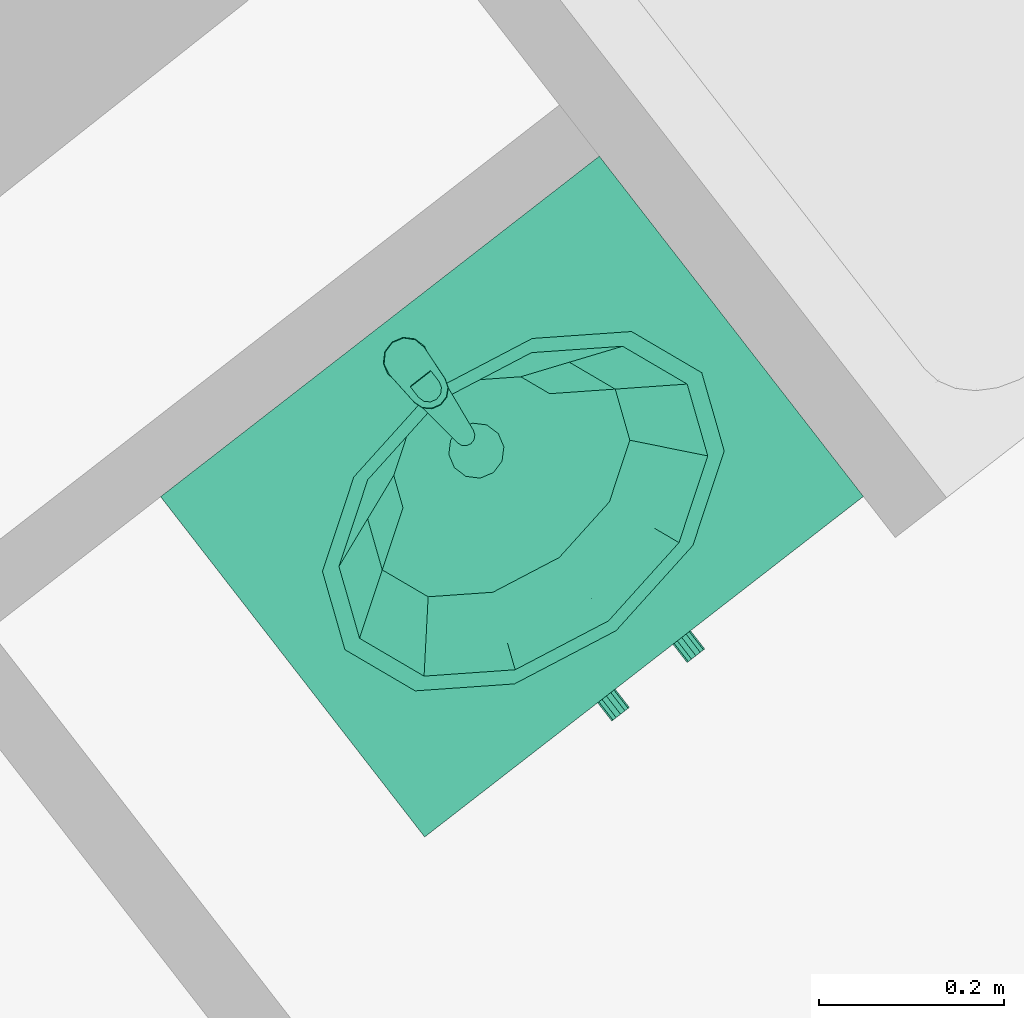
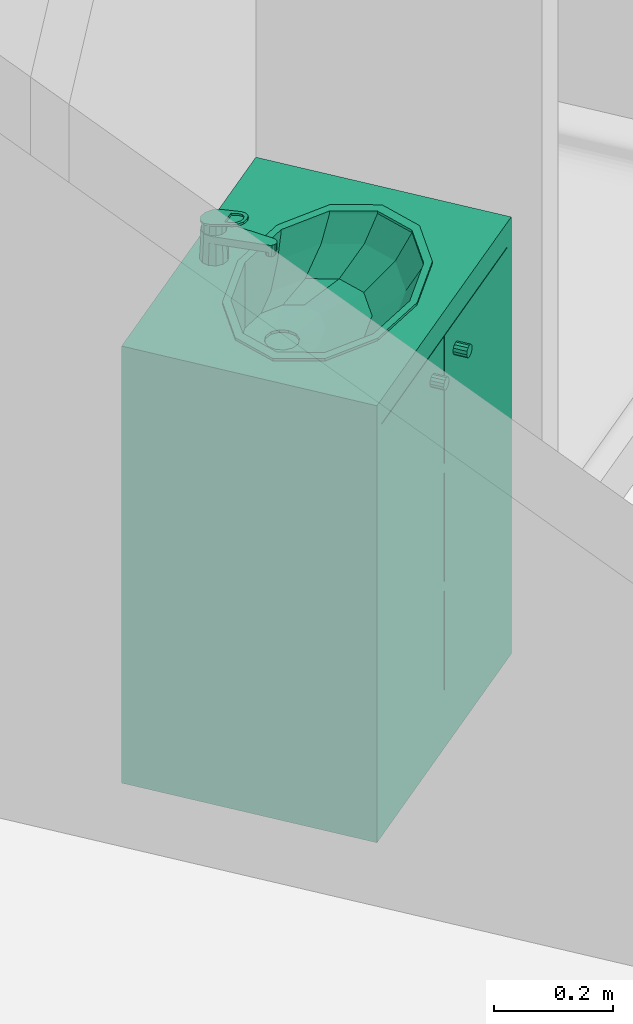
# One storey, part 137 of 195: 1 distribution element.
"""IFC2X3 building model written with IfcOpenShell, lengths in metres."""

from ifc_helpers import new_model, entity, si_unit, converted_unit, derived_unit, money_unit, direction, frame, origin_with_axes, place, context, subcontext, project, spatial, open_shell, faceted_brep, surface_model, source, transform, mapped, type_object, element, save


model = new_model("IFC2X3")

# Units and contexts
model_context = context("Model", 3, precision=1e-05, world=origin_with_axes(), true_north=direction((0.0, 1.0)))
body_context = subcontext(model_context, "Body", "Model", "MODEL_VIEW")
ifc_project = project(units=[si_unit("LENGTHUNIT", "METRE"), si_unit("AREAUNIT", "SQUARE_METRE"), si_unit("VOLUMEUNIT", "CUBIC_METRE"), converted_unit("PLANEANGLEUNIT", "DEGREE", entity("IfcPlaneAngleMeasure", 0.0174532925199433), si_unit("PLANEANGLEUNIT", "RADIAN"), dimensions=[0, 0, 0, 0, 0, 0, 0]), money_unit("CHF"), converted_unit("TIMEUNIT", "Year", entity("IfcTimeMeasure", 31557600.0), si_unit("TIMEUNIT", "SECOND"), dimensions=[0, 0, 1, 0, 0, 0, 0]), si_unit("MASSUNIT", "GRAM", prefix="KILO"), si_unit("THERMODYNAMICTEMPERATUREUNIT", "DEGREE_CELSIUS"), si_unit("LUMINOUSINTENSITYUNIT", "LUMEN"), si_unit("ENERGYUNIT", "JOULE", prefix="MEGA"), derived_unit("THERMALCONDUCTANCEUNIT", [(si_unit("POWERUNIT", "WATT"), 1), (si_unit("LENGTHUNIT", "METRE"), -1), (si_unit("THERMODYNAMICTEMPERATUREUNIT", "KELVIN"), -1)]), derived_unit("SPECIFICHEATCAPACITYUNIT", [(si_unit("ENERGYUNIT", "JOULE"), 1), (si_unit("MASSUNIT", "GRAM", prefix="KILO"), -1), (si_unit("THERMODYNAMICTEMPERATUREUNIT", "KELVIN"), -1)]), derived_unit("MASSDENSITYUNIT", [(si_unit("MASSUNIT", "GRAM", prefix="KILO"), 1), (si_unit("VOLUMEUNIT", "CUBIC_METRE"), -1)])], contexts=[model_context])

# Site, building, storey
site_placement = place(None, origin_with_axes())
site = spatial("IfcSite", under=ifc_project, at=site_placement, Name="Site", CompositionType="ELEMENT")
building_placement = place(site_placement, origin_with_axes())
building = spatial("IfcBuilding", under=site, at=building_placement, Name="Bâtiment", CompositionType="ELEMENT")
storey_placement = place(building_placement, origin_with_axes())
storey = spatial("IfcBuildingStorey", under=building, at=storey_placement, Name="rdc", CompositionType="ELEMENT", Elevation=0.0)

# Distribution element
distribution_element_type = type_object("IfcDistributionElementType", Name="Lavabo sur meuble 27")
shared_shape = source(origin_with_axes(), body_context, "Body", "SurfaceModel", [
    faceted_brep([(0.0, 0.0, 0.0), (0.0, 0.0, 0.1), (-0.6, 0.0, 0.1), (-0.6, 0.0, 0.0), (0.0, 0.4653441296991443, 0.0), (0.0, 0.4653441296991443, 0.1), (-0.6, 0.4653441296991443, 0.1), (-0.6, 0.4653441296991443, 0.0)], [[[0, 1, 2, 3]], [[4, 5, 1, 0]], [[1, 5, 6, 2]], [[3, 2, 6, 7]], [[0, 3, 7, 4]], [[7, 6, 5, 4]]]),
    faceted_brep([(0.0, 0.0, 0.1), (0.0, 0.0, 0.12), (-0.02, 0.0, 0.12), (-0.02, 0.0, 0.1), (0.0, 0.4653441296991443, 0.1), (0.0, 0.4653441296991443, 0.12), (-0.02, 0.4653441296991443, 0.12), (-0.58, 0.4653441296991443, 0.12), (-0.6, 0.4653441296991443, 0.12), (-0.6, 0.0, 0.12), (-0.58, 0.0, 0.12), (-0.58, 0.0, 0.1), (-0.6, 0.0, 0.1), (-0.6, 0.4653441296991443, 0.1), (-0.58, 0.4653441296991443, 0.1), (-0.02, 0.4653441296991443, 0.1)], [[[0, 1, 2, 3]], [[4, 5, 1, 0]], [[1, 5, 6, 7, 8, 9, 10, 2]], [[3, 2, 10, 11]], [[0, 3, 11, 12, 13, 14, 15, 4]], [[15, 6, 5, 4]], [[14, 7, 6, 15]], [[13, 8, 7, 14]], [[12, 9, 8, 13]], [[11, 10, 9, 12]]]),
    faceted_brep([(0.0, 0.0, 0.12), (0.0, 0.0, 0.85), (-0.02, 0.0, 0.85), (-0.02, 0.0, 0.12), (0.0, 0.4653441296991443, 0.12), (0.0, 0.4653441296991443, 0.85), (-0.6, 0.4653441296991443, 0.85), (-0.6, 0.0, 0.85), (-0.58, 0.0, 0.85), (-0.58, 0.4453441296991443, 0.85), (-0.02, 0.4453441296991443, 0.85), (-0.02, 0.4453441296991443, 0.12), (-0.58, 0.4453441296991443, 0.12), (-0.58, 0.0, 0.12), (-0.6, 0.0, 0.12), (-0.6, 0.4653441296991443, 0.12)], [[[0, 1, 2, 3]], [[4, 5, 1, 0]], [[1, 5, 6, 7, 8, 9, 10, 2]], [[3, 2, 10, 11]], [[0, 3, 11, 12, 13, 14, 15, 4]], [[15, 6, 5, 4]], [[14, 7, 6, 15]], [[13, 8, 7, 14]], [[12, 9, 8, 13]], [[11, 10, 9, 12]]]),
    faceted_brep([(-0.58, 0.0, 0.3233333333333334), (-0.58, 0.0, 0.3433333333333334), (-0.58, 0.4453441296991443, 0.3433333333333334), (-0.58, 0.4453441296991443, 0.3233333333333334), (-0.02, 0.0, 0.3233333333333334), (-0.02, 0.0, 0.3433333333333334), (-0.02, 0.4453441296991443, 0.3433333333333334), (-0.02, 0.4453441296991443, 0.3233333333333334)], [[[0, 1, 2, 3]], [[4, 5, 1, 0]], [[1, 5, 6, 2]], [[3, 2, 6, 7]], [[0, 3, 7, 4]], [[7, 6, 5, 4]]]),
    faceted_brep([(-0.58, 0.0, 0.5666666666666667), (-0.58, 0.0, 0.5866666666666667), (-0.58, 0.4453441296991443, 0.5866666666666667), (-0.58, 0.4453441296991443, 0.5666666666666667), (-0.02, 0.0, 0.5666666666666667), (-0.02, 0.0, 0.5866666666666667), (-0.02, 0.4453441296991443, 0.5866666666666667), (-0.02, 0.4453441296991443, 0.5666666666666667)], [[[0, 1, 2, 3]], [[4, 5, 1, 0]], [[1, 5, 6, 2]], [[3, 2, 6, 7]], [[0, 3, 7, 4]], [[7, 6, 5, 4]]]),
    faceted_brep([(0.0, 0.4653441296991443, 0.85), (0.0, 0.0, 0.85), (-0.6, 0.0, 0.85), (-0.6, 0.4653441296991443, 0.85), (-0.4124999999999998, 0.08276825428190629, 0.85), (-0.3, 0.06267206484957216, 0.85), (-0.1874999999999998, 0.08276825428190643, 0.85), (-0.1051442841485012, 0.1376720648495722, 0.85), (-0.07499999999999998, 0.2126720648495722, 0.85), (-0.1051442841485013, 0.2876720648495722, 0.85), (-0.1875000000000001, 0.342575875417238, 0.85), (-0.3, 0.3626720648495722, 0.85), (-0.4125, 0.3425758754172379, 0.85), (-0.4948557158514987, 0.2876720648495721, 0.85), (-0.525, 0.2126720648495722, 0.85), (-0.4948557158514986, 0.137672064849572, 0.85), (0.0, 0.4653441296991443, 0.9), (0.0, 0.0, 0.9), (-0.6, 0.0, 0.9), (-0.6, 0.4653441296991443, 0.9), (-0.3, 0.06267206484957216, 0.9), (-0.4124999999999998, 0.08276825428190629, 0.9), (-0.1874999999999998, 0.08276825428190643, 0.9), (-0.1051442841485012, 0.1376720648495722, 0.9), (-0.07499999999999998, 0.2126720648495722, 0.9), (-0.1051442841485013, 0.2876720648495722, 0.9), (-0.1875000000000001, 0.342575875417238, 0.9), (-0.3, 0.3626720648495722, 0.9), (-0.4125, 0.3425758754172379, 0.9), (-0.4948557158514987, 0.2876720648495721, 0.9), (-0.525, 0.2126720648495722, 0.9), (-0.4948557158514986, 0.137672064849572, 0.9)], [[[0, 1, 2, 3], [4, 5, 6, 7, 8, 9, 10, 11, 12, 13, 14, 15]], [[1, 0, 16, 17]], [[2, 1, 17, 18]], [[3, 2, 18, 19]], [[0, 3, 19, 16]], [[20, 5, 4, 21]], [[22, 6, 5, 20]], [[23, 7, 6, 22]], [[24, 8, 7, 23]], [[25, 9, 8, 24]], [[26, 10, 9, 25]], [[27, 11, 10, 26]], [[28, 12, 11, 27]], [[29, 13, 12, 28]], [[30, 14, 13, 29]], [[31, 15, 14, 30]], [[21, 4, 15, 31]], [[18, 17, 16, 19], [28, 27, 26, 25, 24, 23, 22, 20, 21, 31, 30, 29]]]),
    faceted_brep([(-0.544, 0.2126720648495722, 0.905), (-0.511310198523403, 0.2943684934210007, 0.905), (-0.511310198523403, 0.2943684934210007, 0.9), (-0.544, 0.2126720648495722, 0.9), (-0.5113101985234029, 0.1309756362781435, 0.905), (-0.4219999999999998, 0.07116969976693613, 0.905), (-0.3, 0.04927920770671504, 0.905), (-0.1779999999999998, 0.07116969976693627, 0.905), (-0.08868980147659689, 0.1309756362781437, 0.905), (-0.05599999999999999, 0.2126720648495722, 0.905), (-0.088689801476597, 0.2943684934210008, 0.905), (-0.178, 0.3541744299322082, 0.905), (-0.3, 0.3760649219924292, 0.905), (-0.422, 0.3541744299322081, 0.905), (-0.524, 0.2126720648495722, 0.905), (-0.4939896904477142, 0.2876720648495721, 0.905), (-0.412, 0.3425758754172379, 0.905), (-0.3, 0.3626720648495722, 0.905), (-0.1880000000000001, 0.342575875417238, 0.905), (-0.1060103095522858, 0.2876720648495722, 0.905), (-0.07599999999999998, 0.2126720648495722, 0.905), (-0.1060103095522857, 0.1376720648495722, 0.905), (-0.1879999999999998, 0.08276825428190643, 0.905), (-0.3, 0.06267206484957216, 0.905), (-0.4119999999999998, 0.08276825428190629, 0.905), (-0.4939896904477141, 0.137672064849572, 0.905), (-0.422, 0.3541744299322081, 0.9), (-0.3, 0.3760649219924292, 0.9), (-0.178, 0.3541744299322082, 0.9), (-0.088689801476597, 0.2943684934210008, 0.9), (-0.05599999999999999, 0.2126720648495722, 0.9), (-0.08868980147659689, 0.1309756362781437, 0.9), (-0.1779999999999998, 0.07116969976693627, 0.9), (-0.3, 0.04927920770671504, 0.9), (-0.4219999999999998, 0.07116969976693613, 0.9), (-0.5113101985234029, 0.1309756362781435, 0.9), (-0.524, 0.2126720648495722, 0.9), (-0.4939896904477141, 0.137672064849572, 0.9), (-0.4119999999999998, 0.08276825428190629, 0.9), (-0.3, 0.06267206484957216, 0.9), (-0.1879999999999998, 0.08276825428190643, 0.9), (-0.1060103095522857, 0.1376720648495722, 0.9), (-0.07599999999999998, 0.2126720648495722, 0.9), (-0.1060103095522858, 0.2876720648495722, 0.9), (-0.1880000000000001, 0.342575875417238, 0.9), (-0.3, 0.3626720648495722, 0.9), (-0.412, 0.3425758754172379, 0.9), (-0.4939896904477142, 0.2876720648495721, 0.9)], [[[0, 1, 2, 3]], [[0, 4, 5, 6, 7, 8, 9, 10, 11, 12, 13, 1], [14, 15, 16, 17, 18, 19, 20, 21, 22, 23, 24, 25]], [[1, 13, 26, 2]], [[3, 2, 26, 27, 28, 29, 30, 31, 32, 33, 34, 35], [36, 37, 38, 39, 40, 41, 42, 43, 44, 45, 46, 47]], [[4, 0, 3, 35]], [[5, 4, 35, 34]], [[6, 5, 34, 33]], [[7, 6, 33, 32]], [[8, 7, 32, 31]], [[9, 8, 31, 30]], [[10, 9, 30, 29]], [[11, 10, 29, 28]], [[12, 11, 28, 27]], [[13, 12, 27, 26]], [[15, 14, 36, 47]], [[16, 15, 47, 46]], [[17, 16, 46, 45]], [[18, 17, 45, 44]], [[19, 18, 44, 43]], [[20, 19, 43, 42]], [[21, 20, 42, 41]], [[22, 21, 41, 40]], [[23, 22, 40, 39]], [[24, 23, 39, 38]], [[25, 24, 38, 37]], [[14, 25, 37, 36]]]),
    surface_model("IfcShellBasedSurfaceModel", [(-0.3, 0.3626720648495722, 0.9), (-0.412, 0.342575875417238, 0.9), (-0.4008, 0.3445854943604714, 0.848), (-0.3, 0.3626720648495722, 0.848), (-0.4939896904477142, 0.2876720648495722, 0.9), (-0.4745907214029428, 0.2951720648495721, 0.848), (-0.1879999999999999, 0.3425758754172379, 0.9), (-0.1991999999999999, 0.3445854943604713, 0.848), (-0.524, 0.2126720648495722, 0.9), (-0.5016, 0.2276720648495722, 0.848), (-0.1060103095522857, 0.2876720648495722, 0.9), (-0.1254092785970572, 0.2951720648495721, 0.848), (-0.4939896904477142, 0.1376720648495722, 0.9), (-0.4745907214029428, 0.1601720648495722, 0.848), (-0.07599999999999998, 0.2126720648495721, 0.9), (-0.09839999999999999, 0.2276720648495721, 0.848), (-0.412, 0.08276825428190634, 0.9), (-0.4008, 0.1107586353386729, 0.848), (-0.1060103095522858, 0.1376720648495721, 0.9), (-0.1254092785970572, 0.1601720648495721, 0.848), (-0.3, 0.06267206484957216, 0.9), (-0.3, 0.09267206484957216, 0.848), (-0.1879999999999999, 0.08276825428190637, 0.9), (-0.1992, 0.110758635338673, 0.848)], [open_shell([[[0, 1, 2, 3]], [[1, 4, 5, 2]], [[6, 0, 3, 7]], [[4, 8, 9, 5]], [[10, 6, 7, 11]], [[8, 12, 13, 9]], [[14, 10, 11, 15]], [[12, 16, 17, 13]], [[18, 14, 15, 19]], [[16, 20, 21, 17]], [[22, 18, 19, 23]], [[20, 22, 23, 21]]])]),
    surface_model("IfcShellBasedSurfaceModel", [(-0.3, 0.3626720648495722, 0.848), (-0.4008, 0.3445854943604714, 0.848), (-0.379632, 0.3483836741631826, 0.7959999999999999), (-0.3, 0.3626720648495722, 0.7959999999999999), (-0.4745907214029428, 0.2951720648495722, 0.848), (-0.4379266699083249, 0.3093470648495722, 0.7959999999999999), (-0.1991999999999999, 0.3445854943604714, 0.848), (-0.2203679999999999, 0.3483836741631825, 0.7959999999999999), (-0.5016, 0.2276720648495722, 0.848), (-0.459264, 0.2560220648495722, 0.7959999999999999), (-0.1254092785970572, 0.2951720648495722, 0.848), (-0.1620733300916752, 0.3093470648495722, 0.7959999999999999), (-0.4745907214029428, 0.1601720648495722, 0.848), (-0.4379266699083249, 0.2026970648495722, 0.7959999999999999), (-0.09839999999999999, 0.2276720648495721, 0.848), (-0.140736, 0.2560220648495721, 0.7959999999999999), (-0.4008, 0.1107586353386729, 0.848), (-0.379632, 0.1636604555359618, 0.7959999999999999), (-0.1254092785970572, 0.1601720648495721, 0.848), (-0.1620733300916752, 0.2026970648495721, 0.7959999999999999), (-0.3, 0.09267206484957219, 0.848), (-0.3, 0.1493720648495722, 0.7959999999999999), (-0.1992, 0.110758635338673, 0.848), (-0.220368, 0.1636604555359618, 0.7959999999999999)], [open_shell([[[0, 1, 2, 3]], [[1, 4, 5, 2]], [[6, 0, 3, 7]], [[4, 8, 9, 5]], [[10, 6, 7, 11]], [[8, 12, 13, 9]], [[14, 10, 11, 15]], [[12, 16, 17, 13]], [[18, 14, 15, 19]], [[16, 20, 21, 17]], [[22, 18, 19, 23]], [[20, 22, 23, 21]]])]),
    surface_model("IfcShellBasedSurfaceModel", [(-0.3, 0.3626720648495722, 0.7959999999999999), (-0.379632, 0.3483836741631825, 0.7959999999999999), (-0.35016816, 0.3536703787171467, 0.7699999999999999), (-0.3, 0.3626720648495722, 0.7699999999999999), (-0.4379266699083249, 0.3093470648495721, 0.7959999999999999), (-0.3868938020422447, 0.3290773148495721, 0.7699999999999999), (-0.2203679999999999, 0.3483836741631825, 0.7959999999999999), (-0.2498318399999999, 0.3536703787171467, 0.7699999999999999), (-0.459264, 0.2560220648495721, 0.7959999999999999), (-0.40033632, 0.2954825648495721, 0.7699999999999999), (-0.1620733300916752, 0.3093470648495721, 0.7959999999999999), (-0.2131061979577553, 0.3290773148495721, 0.7699999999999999), (-0.4379266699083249, 0.2026970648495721, 0.7959999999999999), (-0.3868938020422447, 0.2618878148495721, 0.7699999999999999), (-0.140736, 0.2560220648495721, 0.7959999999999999), (-0.19966368, 0.2954825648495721, 0.7699999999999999), (-0.379632, 0.1636604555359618, 0.7959999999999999), (-0.35016816, 0.2372947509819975, 0.7699999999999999), (-0.1620733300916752, 0.2026970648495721, 0.7959999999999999), (-0.2131061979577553, 0.2618878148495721, 0.7699999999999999), (-0.3, 0.1493720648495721, 0.7959999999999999), (-0.3, 0.2282930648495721, 0.7699999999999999), (-0.220368, 0.1636604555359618, 0.7959999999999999), (-0.24983184, 0.2372947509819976, 0.7699999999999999)], [open_shell([[[0, 1, 2, 3]], [[1, 4, 5, 2]], [[6, 0, 3, 7]], [[4, 8, 9, 5]], [[10, 6, 7, 11]], [[8, 12, 13, 9]], [[14, 10, 11, 15]], [[12, 16, 17, 13]], [[18, 14, 15, 19]], [[16, 20, 21, 17]], [[22, 18, 19, 23]], [[20, 22, 23, 21]]])]),
    surface_model("IfcShellBasedSurfaceModel", [(-0.3, 0.3626720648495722, 0.7699999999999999), (-0.35016816, 0.3536703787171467, 0.7699999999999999), (-0.315, 0.3214633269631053, 0.7629999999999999), (-0.3259807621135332, 0.3104825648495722, 0.7629999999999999), (-0.3, 0.3254825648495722, 0.7629999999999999), (-0.3868938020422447, 0.3290773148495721, 0.7699999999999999), (-0.2498318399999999, 0.3536703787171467, 0.7699999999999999), (-0.33, 0.2954825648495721, 0.7629999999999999), (-0.285, 0.3214633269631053, 0.7629999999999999), (-0.40033632, 0.2954825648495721, 0.7699999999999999), (-0.2131061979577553, 0.3290773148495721, 0.7699999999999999), (-0.3259807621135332, 0.2804825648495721, 0.7629999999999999), (-0.2740192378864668, 0.3104825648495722, 0.7629999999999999), (-0.3868938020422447, 0.2618878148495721, 0.7699999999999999), (-0.19966368, 0.2954825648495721, 0.7699999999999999), (-0.315, 0.269501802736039, 0.7629999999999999), (-0.27, 0.2954825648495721, 0.7629999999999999), (-0.35016816, 0.2372947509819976, 0.7699999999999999), (-0.2131061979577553, 0.2618878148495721, 0.7699999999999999), (-0.3, 0.2654825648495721, 0.7629999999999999), (-0.2740192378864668, 0.2804825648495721, 0.7629999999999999), (-0.3, 0.2282930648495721, 0.7699999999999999), (-0.24983184, 0.2372947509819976, 0.7699999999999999), (-0.285, 0.269501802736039, 0.7629999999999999)], [open_shell([[[0, 1, 2]], [[1, 3, 2]], [[0, 2, 4]], [[1, 5, 3]], [[6, 0, 4]], [[5, 7, 3]], [[6, 4, 8]], [[5, 9, 7]], [[10, 6, 8]], [[9, 11, 7]], [[10, 8, 12]], [[9, 13, 11]], [[14, 10, 12]], [[13, 15, 11]], [[14, 12, 16]], [[13, 17, 15]], [[18, 14, 16]], [[17, 19, 15]], [[18, 16, 20]], [[17, 21, 19]], [[22, 18, 20]], [[21, 23, 19]], [[22, 20, 23]], [[21, 22, 23]]])]),
    surface_model("IfcShellBasedSurfaceModel", [(-0.33, 0.2954825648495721, 0.763), (-0.3259807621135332, 0.3104825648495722, 0.763), (-0.3259807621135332, 0.3104825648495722, 0.758), (-0.33, 0.2954825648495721, 0.758), (-0.315, 0.3214633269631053, 0.763), (-0.315, 0.3214633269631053, 0.758), (-0.3, 0.3254825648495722, 0.758), (-0.285, 0.3214633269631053, 0.758), (-0.2740192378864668, 0.3104825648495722, 0.758), (-0.27, 0.2954825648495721, 0.758), (-0.2740192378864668, 0.2804825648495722, 0.758), (-0.285, 0.269501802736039, 0.758), (-0.3, 0.2654825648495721, 0.758), (-0.3149999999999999, 0.269501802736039, 0.758), (-0.3259807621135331, 0.2804825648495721, 0.758), (-0.3259807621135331, 0.2804825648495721, 0.763), (-0.3, 0.3254825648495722, 0.763), (-0.285, 0.3214633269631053, 0.763), (-0.2740192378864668, 0.3104825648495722, 0.763), (-0.27, 0.2954825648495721, 0.763), (-0.2740192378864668, 0.2804825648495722, 0.763), (-0.285, 0.269501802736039, 0.763), (-0.3, 0.2654825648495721, 0.763), (-0.3149999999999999, 0.269501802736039, 0.763)], [open_shell([[[0, 1, 2, 3]], [[1, 4, 5, 2]], [[3, 2, 5, 6, 7, 8, 9, 10, 11, 12, 13, 14]], [[15, 0, 3, 14]], [[4, 16, 6, 5]], [[16, 17, 7, 6]], [[17, 18, 8, 7]], [[18, 19, 9, 8]], [[19, 20, 10, 9]], [[20, 21, 11, 10]], [[21, 22, 12, 11]], [[22, 23, 13, 12]], [[23, 15, 14, 13]]])]),
    faceted_brep([(-0.3125, 0.4406587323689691, 0.9), (-0.310587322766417, 0.4373458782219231, 0.976507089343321), (-0.3, 0.4402100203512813, 0.9759615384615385), (-0.3, 0.4440080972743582, 0.9), (-0.3216506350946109, 0.4315080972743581, 0.9), (-0.3182735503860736, 0.4295583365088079, 0.9779904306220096), (-0.321, 0.4190080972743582, 0.98), (-0.3181003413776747, 0.4085578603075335, 0.9819905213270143), (-0.3104141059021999, 0.400970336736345, 0.9834357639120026), (-0.3, 0.3982062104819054, 0.9839622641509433), (-0.2895858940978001, 0.400970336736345, 0.9834357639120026), (-0.2818996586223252, 0.4085578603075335, 0.9819905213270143), (-0.279, 0.4190080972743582, 0.98), (-0.2817264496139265, 0.4295583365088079, 0.9779904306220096), (-0.289412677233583, 0.4373458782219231, 0.976507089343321), (-0.2875, 0.4406587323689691, 0.9), (-0.278349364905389, 0.4315080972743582, 0.9), (-0.275, 0.4190080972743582, 0.9), (-0.278349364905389, 0.4065080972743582, 0.9), (-0.2875, 0.3973574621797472, 0.9), (-0.3, 0.3940080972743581, 0.9), (-0.3125, 0.3973574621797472, 0.9), (-0.3216506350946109, 0.4065080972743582, 0.9), (-0.325, 0.4190080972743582, 0.9)], [[[0, 1, 2, 3]], [[4, 5, 1, 0]], [[1, 5, 6, 7, 8, 9, 10, 11, 12, 13, 14, 2]], [[3, 2, 14, 15]], [[0, 3, 15, 16, 17, 18, 19, 20, 21, 22, 23, 4]], [[23, 6, 5, 4]], [[22, 7, 6, 23]], [[21, 8, 7, 22]], [[20, 9, 8, 21]], [[19, 10, 9, 20]], [[18, 11, 10, 19]], [[17, 12, 11, 18]], [[16, 13, 12, 17]], [[15, 14, 13, 16]]]),
    faceted_brep([(-0.309, 0.3160080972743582, 0.935), (-0.309, 0.3160080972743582, 0.9450000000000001), (-0.3077942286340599, 0.3205080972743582, 0.9450000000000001), (-0.3077942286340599, 0.3205080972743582, 0.935), (-0.3077942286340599, 0.3115080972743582, 0.935), (-0.3077942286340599, 0.3115080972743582, 0.9450000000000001), (-0.3045, 0.3082138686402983, 0.9450000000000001), (-0.3, 0.3070080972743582, 0.9450000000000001), (-0.2955, 0.3082138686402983, 0.9450000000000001), (-0.2922057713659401, 0.3115080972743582, 0.9450000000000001), (-0.291, 0.3160080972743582, 0.9450000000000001), (-0.2922057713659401, 0.3205080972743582, 0.9450000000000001), (-0.2955, 0.3238023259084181, 0.9450000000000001), (-0.3, 0.3250080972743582, 0.9450000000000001), (-0.3045, 0.3238023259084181, 0.9450000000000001), (-0.3045, 0.3238023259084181, 0.935), (-0.3, 0.3250080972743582, 0.935), (-0.2955, 0.3238023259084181, 0.935), (-0.2922057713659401, 0.3205080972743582, 0.935), (-0.291, 0.3160080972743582, 0.935), (-0.2922057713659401, 0.3115080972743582, 0.935), (-0.2955, 0.3082138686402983, 0.935), (-0.3, 0.3070080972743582, 0.935), (-0.3045, 0.3082138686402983, 0.935)], [[[0, 1, 2, 3]], [[4, 5, 1, 0]], [[1, 5, 6, 7, 8, 9, 10, 11, 12, 13, 14, 2]], [[3, 2, 14, 15]], [[0, 3, 15, 16, 17, 18, 19, 20, 21, 22, 23, 4]], [[23, 6, 5, 4]], [[22, 7, 6, 23]], [[21, 8, 7, 22]], [[20, 9, 8, 21]], [[19, 10, 9, 20]], [[18, 11, 10, 19]], [[17, 12, 11, 18]], [[16, 13, 12, 17]], [[15, 14, 13, 16]]]),
    faceted_brep([(-0.2871282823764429, 0.439264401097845, 0.9600000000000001), (-0.300000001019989, 0.44300807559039, 0.9600000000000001), (-0.3128717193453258, 0.4392644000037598, 0.9600000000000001), (-0.3217278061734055, 0.4292013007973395, 0.9600000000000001), (-0.3238053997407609, 0.4159581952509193, 0.9600000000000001), (-0.310912, 0.3146197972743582, 0.9600000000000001), (-0.309028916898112, 0.3097249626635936, 0.9600000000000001), (-0.3050933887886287, 0.3062584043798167, 0.9600000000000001), (-0.300000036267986, 0.305008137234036, 0.9600000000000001), (-0.2949066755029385, 0.3062583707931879, 0.9600000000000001), (-0.2909711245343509, 0.3097249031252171, 0.9600000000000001), (-0.2890880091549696, 0.3146197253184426, 0.9600000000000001), (-0.2761946, 0.4159581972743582, 0.9600000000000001), (-0.2782721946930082, 0.4292013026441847, 0.9600000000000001), (-0.311, 0.4380606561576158, 0.9600000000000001), (-0.3, 0.4410080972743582, 0.9600000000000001), (-0.289, 0.4380606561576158, 0.9600000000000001), (-0.2809474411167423, 0.4300080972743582, 0.9600000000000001), (-0.278, 0.4190080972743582, 0.9600000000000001), (-0.2809474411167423, 0.4080080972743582, 0.9600000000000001), (-0.289, 0.3999555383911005, 0.9600000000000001), (-0.3, 0.3970080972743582, 0.9600000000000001), (-0.3109999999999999, 0.3999555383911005, 0.9600000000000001), (-0.3190525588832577, 0.4080080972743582, 0.9600000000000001), (-0.322, 0.4190080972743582, 0.9600000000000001), (-0.3190525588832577, 0.4300080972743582, 0.9600000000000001), (-0.2871282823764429, 0.439264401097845, 0.9450000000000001), (-0.300000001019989, 0.44300807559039, 0.9450000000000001), (-0.3128717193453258, 0.4392644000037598, 0.9450000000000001), (-0.3217278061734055, 0.4292013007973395, 0.9450000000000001), (-0.3238053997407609, 0.4159581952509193, 0.9450000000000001), (-0.310912, 0.3146197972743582, 0.9450000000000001), (-0.309028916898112, 0.3097249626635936, 0.9450000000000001), (-0.3050933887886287, 0.3062584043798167, 0.9450000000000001), (-0.300000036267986, 0.305008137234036, 0.9450000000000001), (-0.2949066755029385, 0.3062583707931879, 0.9450000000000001), (-0.2909711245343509, 0.3097249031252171, 0.9450000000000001), (-0.2890880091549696, 0.3146197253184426, 0.9450000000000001), (-0.2761946, 0.4159581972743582, 0.9450000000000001), (-0.2782721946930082, 0.4292013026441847, 0.9450000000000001), (-0.3, 0.4417580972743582, 0.9450000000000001), (-0.311375, 0.4387101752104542, 0.9450000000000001), (-0.288625, 0.4387101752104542, 0.9450000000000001), (-0.280297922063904, 0.4303830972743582, 0.9450000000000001), (-0.2772499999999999, 0.4190080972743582, 0.9450000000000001), (-0.280297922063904, 0.4076330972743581, 0.9450000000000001), (-0.288625, 0.3993060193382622, 0.9450000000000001), (-0.3, 0.3962580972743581, 0.9450000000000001), (-0.311375, 0.3993060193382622, 0.9450000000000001), (-0.319702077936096, 0.4076330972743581, 0.9450000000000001), (-0.32275, 0.4190080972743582, 0.9450000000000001), (-0.319702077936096, 0.4303830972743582, 0.9450000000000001)], [[[0, 1, 2, 3, 4, 5, 6, 7, 8, 9, 10, 11, 12, 13], [14, 15, 16, 17, 18, 19, 20, 21, 22, 23, 24, 25]], [[26, 27, 1, 0]], [[27, 28, 2, 1]], [[28, 29, 3, 2]], [[29, 30, 4, 3]], [[30, 31, 5, 4]], [[31, 32, 6, 5]], [[32, 33, 7, 6]], [[33, 34, 8, 7]], [[34, 35, 9, 8]], [[35, 36, 10, 9]], [[36, 37, 11, 10]], [[37, 38, 12, 11]], [[38, 39, 13, 12]], [[39, 26, 0, 13]], [[40, 15, 14, 41]], [[42, 16, 15, 40]], [[16, 42, 43, 17]], [[17, 43, 44, 18]], [[18, 44, 45, 19]], [[19, 45, 46, 20]], [[20, 46, 47, 21]], [[48, 22, 21, 47]], [[49, 23, 22, 48]], [[50, 24, 23, 49]], [[51, 25, 24, 50]], [[41, 14, 25, 51]], [[34, 33, 32, 31, 30, 29, 28, 27, 26, 39, 38, 37, 36, 35], [48, 47, 46, 45, 44, 43, 42, 40, 41, 51, 50, 49]]]),
    faceted_brep([(-0.323893, 0.4173155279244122, 0.9803223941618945), (-0.323893, 0.4180639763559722, 0.9842517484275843), (-0.3212964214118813, 0.4305312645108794, 0.9818770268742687), (-0.3212964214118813, 0.4297828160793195, 0.9779476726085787), (-0.3209459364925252, 0.377171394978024, 0.9879688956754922), (-0.3209459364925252, 0.377919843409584, 0.9918982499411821), (-0.317663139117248, 0.3682421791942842, 0.9937416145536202), (-0.3100614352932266, 0.3612927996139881, 0.995065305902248), (-0.2999995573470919, 0.3587709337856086, 0.9955456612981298), (-0.289937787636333, 0.3612932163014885, 0.9950652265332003), (-0.2823363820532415, 0.3682429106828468, 0.9937414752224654), (-0.279054, 0.3779207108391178, 0.991898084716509), (-0.2761069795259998, 0.4180642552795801, 0.9842516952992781), (-0.2787037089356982, 0.4305315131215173, 0.9818769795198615), (-0.2875283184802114, 0.4398477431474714, 0.9801024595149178), (-0.3000001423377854, 0.4432885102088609, 0.9794470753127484), (-0.3124719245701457, 0.4398475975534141, 0.9801024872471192), (-0.314, 0.3942157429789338, 0.9887942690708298), (-0.286, 0.3942157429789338, 0.9887942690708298), (-0.286, 0.3794001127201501, 0.9916162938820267), (-0.2878756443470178, 0.3725237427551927, 0.9929260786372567), (-0.293, 0.3674898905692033, 0.9938849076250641), (-0.3, 0.3656473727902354, 0.9942358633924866), (-0.307, 0.3674898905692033, 0.9938849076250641), (-0.3121243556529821, 0.3725237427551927, 0.9929260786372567), (-0.314, 0.3794001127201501, 0.9916162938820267), (-0.3124719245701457, 0.4390991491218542, 0.9761731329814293), (-0.3000001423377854, 0.4425400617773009, 0.9755177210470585), (-0.2875283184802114, 0.4390992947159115, 0.976173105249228), (-0.2787037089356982, 0.4297830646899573, 0.9779476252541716), (-0.2761069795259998, 0.4173158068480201, 0.9803223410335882), (-0.279054, 0.3771722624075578, 0.9879687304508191), (-0.2823363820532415, 0.3674944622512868, 0.9898121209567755), (-0.289937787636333, 0.3605447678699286, 0.9911358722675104), (-0.2999995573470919, 0.3580224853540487, 0.9916163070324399), (-0.3100614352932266, 0.3605443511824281, 0.9911359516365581), (-0.317663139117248, 0.3674937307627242, 0.9898122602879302), (-0.314, 0.3934672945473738, 0.9848649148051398), (-0.314, 0.37865166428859, 0.9876869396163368), (-0.3121243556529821, 0.3717752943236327, 0.9889967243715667), (-0.307, 0.3667414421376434, 0.9899555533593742), (-0.3, 0.3648989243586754, 0.9903065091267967), (-0.293, 0.3667414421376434, 0.9899555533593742), (-0.2878756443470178, 0.3717752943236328, 0.9889967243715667), (-0.286, 0.37865166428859, 0.9876869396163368), (-0.286, 0.3934672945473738, 0.9848649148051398)], [[[0, 1, 2, 3]], [[4, 5, 1, 0]], [[1, 5, 6, 7, 8, 9, 10, 11, 12, 13, 14, 15, 16, 2], [17, 18, 19, 20, 21, 22, 23, 24, 25]], [[3, 2, 16, 26]], [[0, 3, 26, 27, 28, 29, 30, 31, 32, 33, 34, 35, 36, 4], [37, 38, 39, 40, 41, 42, 43, 44, 45]], [[36, 6, 5, 4]], [[35, 7, 6, 36]], [[34, 8, 7, 35]], [[33, 9, 8, 34]], [[32, 10, 9, 33]], [[31, 11, 10, 32]], [[30, 12, 11, 31]], [[29, 13, 12, 30]], [[28, 14, 13, 29]], [[27, 15, 14, 28]], [[26, 16, 15, 27]], [[45, 18, 17, 37]], [[44, 19, 18, 45]], [[43, 20, 19, 44]], [[42, 21, 20, 43]], [[41, 22, 21, 42]], [[40, 23, 22, 41]], [[39, 24, 23, 40]], [[38, 25, 24, 39]], [[37, 17, 25, 38]]]),
    surface_model("IfcShellBasedSurfaceModel", [(-0.001500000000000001, 0.0, 0.1015), (-0.2985, 0.0, 0.1015), (-0.2985, 0.0, 0.8485), (-0.001500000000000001, 0.0, 0.8485)], [open_shell([[[0, 1, 2, 3]]])]),
    faceted_brep([(-0.2588923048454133, 0.0, 0.7855), (-0.2605, 0.0, 0.7915), (-0.2588923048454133, 0.0, 0.7975), (-0.2545, 0.0, 0.8018923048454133), (-0.2485, 0.0, 0.8035), (-0.2425, 0.0, 0.8018923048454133), (-0.2381076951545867, 0.0, 0.7975), (-0.2365, 0.0, 0.7915), (-0.2381076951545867, 0.0, 0.7855), (-0.2425, 0.0, 0.7811076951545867), (-0.2485, 0.0, 0.7795), (-0.2545, 0.0, 0.7811076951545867), (-0.2588923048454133, -0.025, 0.7855), (-0.2605, -0.025, 0.7915), (-0.2588923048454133, -0.025, 0.7975), (-0.2545, -0.025, 0.8018923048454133), (-0.2485, -0.025, 0.8035), (-0.2425, -0.025, 0.8018923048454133), (-0.2381076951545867, -0.025, 0.7975), (-0.2365, -0.025, 0.7915), (-0.2381076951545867, -0.025, 0.7855), (-0.2425, -0.025, 0.7811076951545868), (-0.2485, -0.025, 0.7795), (-0.2545, -0.025, 0.7811076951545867)], [[[0, 1, 2, 3, 4, 5, 6, 7, 8, 9, 10, 11]], [[0, 12, 13, 1]], [[1, 13, 14, 2]], [[2, 14, 15, 3]], [[3, 15, 16, 4]], [[4, 16, 17, 5]], [[5, 17, 18, 6]], [[6, 18, 19, 7]], [[7, 19, 20, 8]], [[8, 20, 21, 9]], [[9, 21, 22, 10]], [[10, 22, 23, 11]], [[11, 23, 12, 0]], [[12, 23, 22, 21, 20, 19, 18, 17, 16, 15, 14, 13]]]),
    surface_model("IfcShellBasedSurfaceModel", [(-0.5985, 0.0, 0.1015), (-0.5985, 0.0, 0.8485), (-0.3015000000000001, 0.0, 0.8485), (-0.3015000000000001, 0.0, 0.1015)], [open_shell([[[0, 1, 2, 3]]])]),
    faceted_brep([(-0.3411076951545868, 0.0, 0.7855), (-0.3455, 0.0, 0.7811076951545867), (-0.3515, 0.0, 0.7795), (-0.3575, 0.0, 0.7811076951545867), (-0.3618923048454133, 0.0, 0.7855), (-0.3635, 0.0, 0.7915), (-0.3618923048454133, 0.0, 0.7975), (-0.3575, 0.0, 0.8018923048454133), (-0.3515, 0.0, 0.8035), (-0.3455, 0.0, 0.8018923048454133), (-0.3411076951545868, 0.0, 0.7975), (-0.3395, 0.0, 0.7915), (-0.3411076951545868, -0.025, 0.7855), (-0.3455, -0.025, 0.7811076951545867), (-0.3515, -0.025, 0.7795), (-0.3575, -0.025, 0.7811076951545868), (-0.3618923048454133, -0.025, 0.7855), (-0.3635, -0.025, 0.7915), (-0.3618923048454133, -0.025, 0.7975), (-0.3575, -0.025, 0.8018923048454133), (-0.3515, -0.025, 0.8035), (-0.3455, -0.025, 0.8018923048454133), (-0.3411076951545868, -0.025, 0.7975), (-0.3395, -0.025, 0.7915)], [[[0, 1, 2, 3, 4, 5, 6, 7, 8, 9, 10, 11]], [[1, 0, 12, 13]], [[2, 1, 13, 14]], [[3, 2, 14, 15]], [[4, 3, 15, 16]], [[5, 4, 16, 17]], [[6, 5, 17, 18]], [[7, 6, 18, 19]], [[8, 7, 19, 20]], [[9, 8, 20, 21]], [[10, 9, 21, 22]], [[11, 10, 22, 23]], [[0, 11, 23, 12]], [[12, 23, 22, 21, 20, 19, 18, 17, 16, 15, 14, 13]]]),
])
distribution_element_placement = place(storey_placement, frame((9539.788017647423, -1039.17239045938, 57.59999999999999), z_axis=(0.0, 0.0, 1.0), x_axis=(0.7899554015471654, 0.6131643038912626, 0.0)))
element("IfcDistributionElement", 1, at=distribution_element_placement, inside=storey, type_object=distribution_element_type, Name="Obj.-004", context=body_context, shape_type="MappedRepresentation", body=[
    mapped(shared_shape, transform((0.0, 0.0, 0.0))),
])

save(model, "model.ifc")
